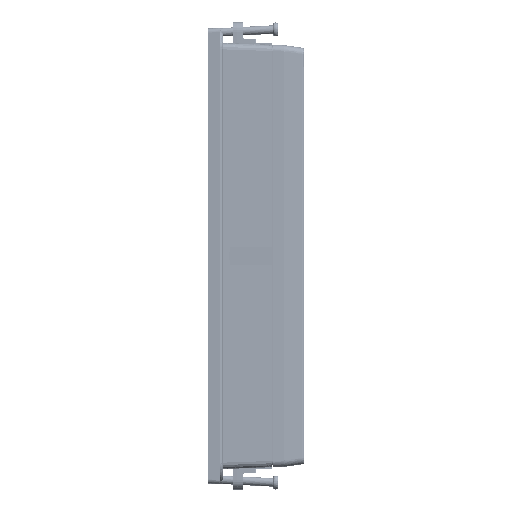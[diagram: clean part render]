
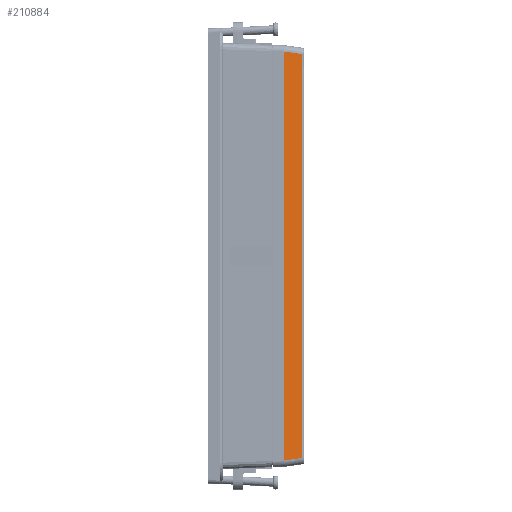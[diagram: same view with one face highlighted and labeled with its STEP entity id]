
A CAD part, left-side view. The second image highlights one B-rep face of the part: STEP entity #210884.
In plain terms, the highlighted free-form (B-spline) face has degree [1, 1] with [2, 2] control points.
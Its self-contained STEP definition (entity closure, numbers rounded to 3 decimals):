
#181 = EDGE_CURVE ( 'NONE', #320289, #398760, #332800, .T. ) ;
#14877 = FACE_OUTER_BOUND ( 'NONE', #211539, .T. ) ;
#20186 = CARTESIAN_POINT ( 'NONE',  ( -126.737, -11.134, -94.762 ) ) ;
#20582 = VERTEX_POINT ( 'NONE', #290840 ) ;
#30090 = EDGE_CURVE ( 'NONE', #346243, #320289, #60516, .T. ) ;
#49186 = ORIENTED_EDGE ( 'NONE', *, *, #181, .F. ) ;
#60516 = B_SPLINE_CURVE_WITH_KNOTS ( 'NONE', 1,
 ( #307437, #403194 ),
 .UNSPECIFIED., .F., .F.,
 ( 2, 2 ),
 ( 0., 1. ),
 .UNSPECIFIED. ) ;
#63237 = B_SPLINE_SURFACE_WITH_KNOTS ( 'NONE', 1, 1, ( 
 ( #249383, #153627 ),
 ( #210484, #337440 ) ),
 .UNSPECIFIED., .F., .F., .F.,
 ( 2, 2 ),
 ( 2, 2 ),
 ( 0.946, 10.528 ),
 ( 50.608, 249.392 ),
 .UNSPECIFIED. ) ;
#63694 = CARTESIAN_POINT ( 'NONE',  ( -127.554, -5.323, -95.57 ) ) ;
#82637 = EDGE_CURVE ( 'NONE', #20582, #398760, #361181, .T. ) ;
#116141 = CARTESIAN_POINT ( 'NONE',  ( -127.554, -5.323, 95.57 ) ) ;
#147137 = CARTESIAN_POINT ( 'NONE',  ( -127.146, -8.228, -95.166 ) ) ;
#153627 = CARTESIAN_POINT ( 'NONE',  ( -127.608, -4.936, -99.392 ) ) ;
#156349 = CARTESIAN_POINT ( 'NONE',  ( -126.329, -14.039, 94.358 ) ) ;
#186812 = CARTESIAN_POINT ( 'NONE',  ( -127.146, -8.228, 95.166 ) ) ;
#192137 = EDGE_CURVE ( 'NONE', #20582, #346243, #207404, .T. ) ;
#207404 = B_SPLINE_CURVE_WITH_KNOTS ( 'NONE', 3,
 ( #305309, #20186, #147137, #63694 ),
 .UNSPECIFIED., .F., .F.,
 ( 4, 4 ),
 ( 0., 1. ),
 .UNSPECIFIED. ) ;
#210484 = CARTESIAN_POINT ( 'NONE',  ( -126.275, -14.425, 99.392 ) ) ;
#210884 = ADVANCED_FACE ( 'NONE', ( #14877 ), #63237, .F. ) ;
#211539 = EDGE_LOOP ( 'NONE', ( #49186, #409571, #278641, #364902 ) ) ;
#220904 = CARTESIAN_POINT ( 'NONE',  ( -127.554, -5.323, -95.57 ) ) ;
#249383 = CARTESIAN_POINT ( 'NONE',  ( -127.608, -4.936, 99.392 ) ) ;
#262361 = CARTESIAN_POINT ( 'NONE',  ( -126.329, -14.039, -94.358 ) ) ;
#278641 = ORIENTED_EDGE ( 'NONE', *, *, #192137, .F. ) ;
#290840 = CARTESIAN_POINT ( 'NONE',  ( -126.329, -14.039, -94.358 ) ) ;
#305309 = CARTESIAN_POINT ( 'NONE',  ( -126.329, -14.039, -94.358 ) ) ;
#307437 = CARTESIAN_POINT ( 'NONE',  ( -127.554, -5.323, -95.57 ) ) ;
#307586 = CARTESIAN_POINT ( 'NONE',  ( -126.737, -11.134, 94.762 ) ) ;
#320289 = VERTEX_POINT ( 'NONE', #116141 ) ;
#328920 = CARTESIAN_POINT ( 'NONE',  ( -126.329, -14.039, 94.358 ) ) ;
#332800 = B_SPLINE_CURVE_WITH_KNOTS ( 'NONE', 3,
 ( #401313, #186812, #307586, #368081 ),
 .UNSPECIFIED., .F., .F.,
 ( 4, 4 ),
 ( 0., 1. ),
 .UNSPECIFIED. ) ;
#337440 = CARTESIAN_POINT ( 'NONE',  ( -126.275, -14.425, -99.392 ) ) ;
#346243 = VERTEX_POINT ( 'NONE', #220904 ) ;
#361181 = B_SPLINE_CURVE_WITH_KNOTS ( 'NONE', 1,
 ( #262361, #328920 ),
 .UNSPECIFIED., .F., .F.,
 ( 2, 2 ),
 ( 0., 1. ),
 .UNSPECIFIED. ) ;
#364902 = ORIENTED_EDGE ( 'NONE', *, *, #82637, .T. ) ;
#368081 = CARTESIAN_POINT ( 'NONE',  ( -126.329, -14.039, 94.358 ) ) ;
#398760 = VERTEX_POINT ( 'NONE', #156349 ) ;
#401313 = CARTESIAN_POINT ( 'NONE',  ( -127.554, -5.323, 95.57 ) ) ;
#403194 = CARTESIAN_POINT ( 'NONE',  ( -127.554, -5.323, 95.57 ) ) ;
#409571 = ORIENTED_EDGE ( 'NONE', *, *, #30090, .F. ) ;
